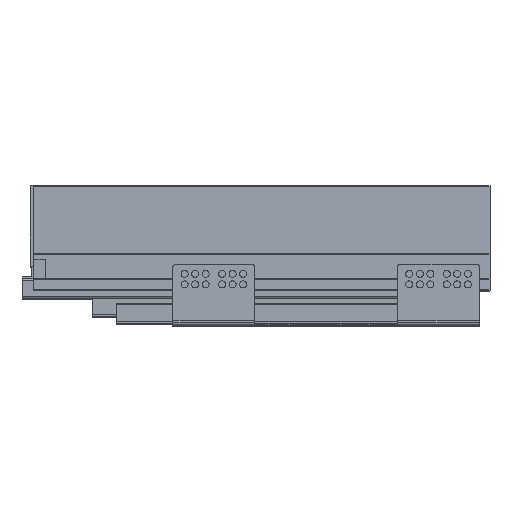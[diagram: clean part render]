
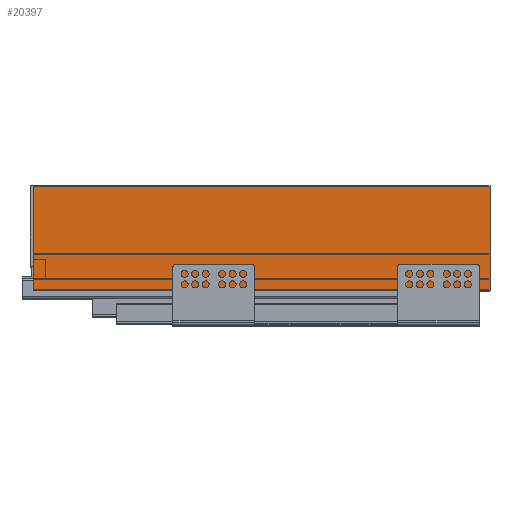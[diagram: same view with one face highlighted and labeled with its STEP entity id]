
A CAD part, top view. The second image highlights one B-rep face of the part: STEP entity #20397.
In plain terms, the highlighted planar face has unit normal (0, 0, 1).
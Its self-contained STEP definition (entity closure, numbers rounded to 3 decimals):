
#493=PLANE('',#21611);
#1344=FACE_OUTER_BOUND('',#2459,.T.);
#2459=EDGE_LOOP('',(#14286,#14287,#14288,#14289));
#3962=LINE('',#29375,#6295);
#3964=LINE('',#29379,#6297);
#3965=LINE('',#29381,#6298);
#3966=LINE('',#29382,#6299);
#6295=VECTOR('',#23687,10.);
#6297=VECTOR('',#23691,10.);
#6298=VECTOR('',#23692,10.);
#6299=VECTOR('',#23693,10.);
#9108=VERTEX_POINT('',#29372);
#9109=VERTEX_POINT('',#29374);
#9110=VERTEX_POINT('',#29378);
#9111=VERTEX_POINT('',#29380);
#11159=EDGE_CURVE('',#9108,#9109,#3962,.T.);
#11161=EDGE_CURVE('',#9108,#9110,#3964,.T.);
#11162=EDGE_CURVE('',#9110,#9111,#3965,.T.);
#11163=EDGE_CURVE('',#9111,#9109,#3966,.T.);
#14286=ORIENTED_EDGE('',*,*,#11161,.T.);
#14287=ORIENTED_EDGE('',*,*,#11162,.T.);
#14288=ORIENTED_EDGE('',*,*,#11163,.T.);
#14289=ORIENTED_EDGE('',*,*,#11159,.F.);
#20397=ADVANCED_FACE('',(#1344),#493,.F.);
#21611=AXIS2_PLACEMENT_3D('',#29377,#23689,#23690);
#23687=DIRECTION('',(1.,0.,0.));
#23689=DIRECTION('center_axis',(0.,0.,-1.));
#23690=DIRECTION('ref_axis',(0.,1.,0.));
#23691=DIRECTION('',(0.,-1.,0.));
#23692=DIRECTION('',(1.,0.,0.));
#23693=DIRECTION('',(0.,1.,0.));
#29372=CARTESIAN_POINT('',(0.,90.,535.));
#29374=CARTESIAN_POINT('',(390.,90.,535.));
#29375=CARTESIAN_POINT('',(0.,90.,535.));
#29377=CARTESIAN_POINT('Origin',(0.,0.,535.));
#29378=CARTESIAN_POINT('',(0.,0.,535.));
#29379=CARTESIAN_POINT('',(0.,90.,535.));
#29380=CARTESIAN_POINT('',(390.,0.,535.));
#29381=CARTESIAN_POINT('',(0.,0.,535.));
#29382=CARTESIAN_POINT('',(390.,90.,535.));
